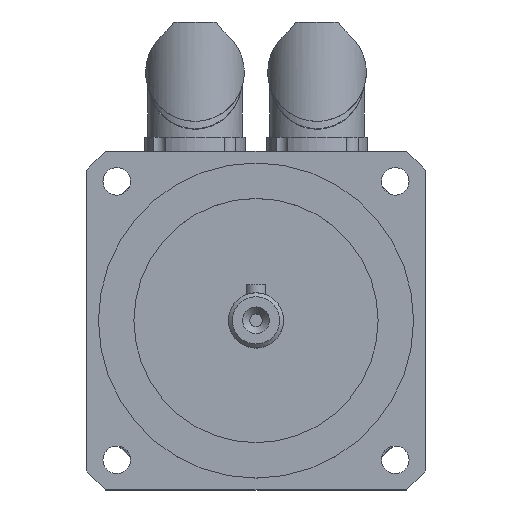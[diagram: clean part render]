
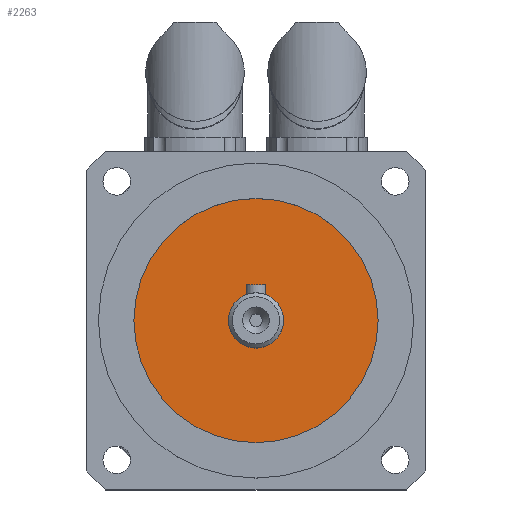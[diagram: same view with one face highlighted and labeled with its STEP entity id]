
A CAD part, top view. The second image highlights one B-rep face of the part: STEP entity #2263.
In plain terms, the highlighted planar face has unit normal (0, 0, 1).
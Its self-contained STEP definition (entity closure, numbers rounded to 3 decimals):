
#182=PLANE('',#2411);
#246=CIRCLE('',#2398,7.);
#255=CIRCLE('',#2409,31.);
#692=VERTEX_POINT('',#3481);
#701=VERTEX_POINT('',#3573);
#945=EDGE_CURVE('',#692,#692,#246,.T.);
#954=EDGE_CURVE('',#701,#701,#255,.T.);
#1290=ORIENTED_EDGE('',*,*,#954,.T.);
#1291=ORIENTED_EDGE('',*,*,#945,.T.);
#1898=EDGE_LOOP('',(#1290));
#1899=EDGE_LOOP('',(#1291));
#2086=FACE_BOUND('',#1898,.T.);
#2087=FACE_BOUND('',#1899,.T.);
#2263=ADVANCED_FACE('',(#2086,#2087),#182,.F.);
#2398=AXIS2_PLACEMENT_3D('',#3480,#2674,#2675);
#2409=AXIS2_PLACEMENT_3D('',#3572,#2695,#2696);
#2411=AXIS2_PLACEMENT_3D('',#3576,#2699,$);
#2674=DIRECTION('',(0.,0.,-1.));
#2675=DIRECTION('',(-7.,0.,0.));
#2695=DIRECTION('',(0.,0.,1.));
#2696=DIRECTION('',(-31.,0.,0.));
#2699=DIRECTION('',(0.,0.,-1.));
#3480=CARTESIAN_POINT('',(0.,0.,137.5));
#3481=CARTESIAN_POINT('',(7.,0.,137.5));
#3572=CARTESIAN_POINT('',(0.,0.,137.5));
#3573=CARTESIAN_POINT('',(31.,0.,137.5));
#3576=CARTESIAN_POINT('',(0.,0.,137.5));
